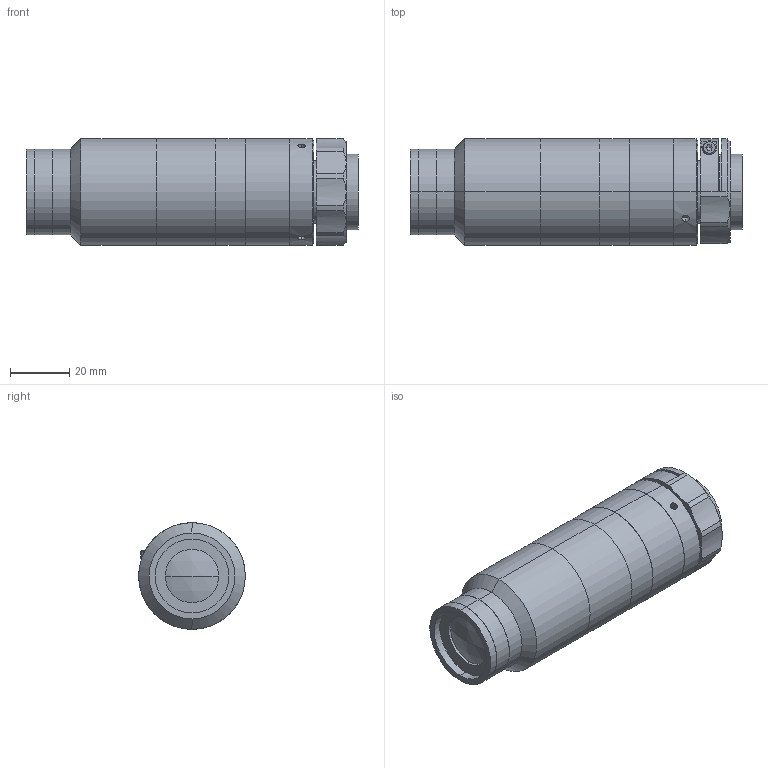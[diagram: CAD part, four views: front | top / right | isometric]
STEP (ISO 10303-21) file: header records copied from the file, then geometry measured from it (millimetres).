
FILE_DESCRIPTION (( 'STEP AP203' ), '1' );
FILE_NAME ('XF-MH07X125.STEP', '2020-08-24T07:09:49', ( 'canrill-02' ), ( '' ), 'SwSTEP 2.0', 'SolidWorks 2014', '' );
FILE_SCHEMA (( 'CONFIG_CONTROL_DESIGN' ));
Length unit declared in the file: millimetre
Products named in the file (1): XF-MH07X125
Bounding box: 112 x 36 x 36 mm (x, y, z)
Surface area: 19006.2 mm2 (no closed solid volume)
Topology: 0 solids, 13 shells, 106 faces, 282 edges, 192 vertices
Faces by surface type: cylinder 51, plane 36, cone 15, sphere 2, torus 2
Entity records: 3687 total; most frequent: CARTESIAN_POINT 900, DIRECTION 625, ORIENTED_EDGE 475, EDGE_CURVE 280, AXIS2_PLACEMENT_3D 261, VERTEX_POINT 192, CIRCLE 154, EDGE_LOOP 133
